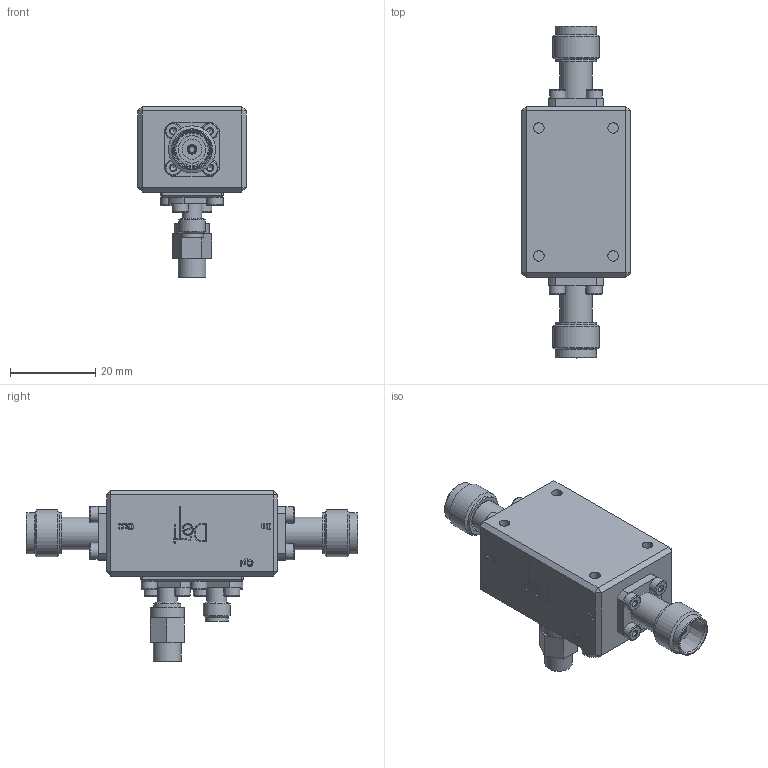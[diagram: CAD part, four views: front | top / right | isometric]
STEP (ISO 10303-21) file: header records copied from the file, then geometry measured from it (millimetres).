
FILE_DESCRIPTION(/* description */ ('Unknown'),/* implementation_level */ '2;1');
FILE_NAME(/* name */ 'DETI_MICROWAVE_HIGH_POWER_UNIDIRECTIONAL_COUPLER_011084_STEP',/* time_stamp */ '2021-06-10T15:46:07+02:00',/* author */ ('ALG'),/* organization */ ('DETI'),/* preprocessor_version */ 'ST-DEVELOPER v16.7',/* originating_system */ 'Solid Edge',/* authorisation */ 'Unknown');
FILE_SCHEMA (('AUTOMOTIVE_DESIGN {1 0 10303 214 3 1 1}'));
Length unit declared in the file: millimetre
Products named in the file (1): CD-1-9-10-30-200-TF-TF-SF2
Bounding box: 25.4 x 77.82 x 39.99 mm (x, y, z)
Volume: 22225.3 mm3; surface area: 9652.2 mm2
Topology: 3 solids, 19 shells, 649 faces, 1566 edges, 1007 vertices
Faces by surface type: plane 405, cylinder 117, cone 62, torus 46, bspline 19
Full cylindrical faces by diameter (mm): 0.459 x1, 0.623 x2, 0.8 x1, 0.985 x2, 1.265 x2, 1.27 x1, 1.4 x2, 2 x12, 2.2 x4, 2.275 x2, 2.459 x4, 2.6 x8, 3.8 x16, 4.1 x2, 4.11 x2, 4.6 x2, 4.64 x2, 4.67 x2, 5.35 x2, 6.255 x2, 6.47 x2, 6.5 x1, 6.7 x1, 6.8 x1, 7.6 x2, 8 x1, 9.64 x4, 11 x2
Entity records: 22021 total; most frequent: CARTESIAN_POINT 3818, DIRECTION 2805, ORIENTED_EDGE 2574, EDGE_CURVE 1287, AXIS2_PLACEMENT_3D 1038, FACE_BOUND 934, VERTEX_POINT 929, EDGE_LOOP 916
